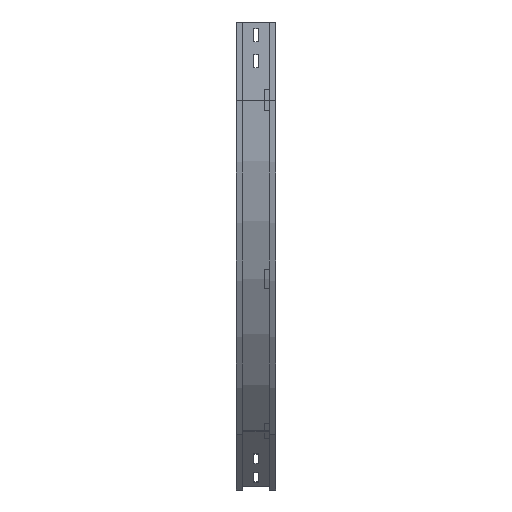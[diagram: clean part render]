
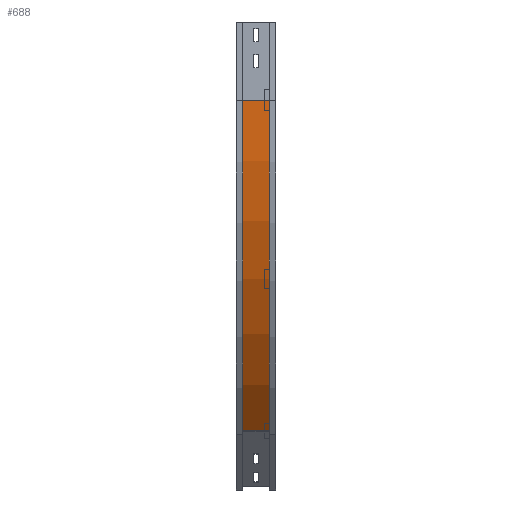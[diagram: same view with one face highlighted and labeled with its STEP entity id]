
A CAD part, left-side view. The second image highlights one B-rep face of the part: STEP entity #688.
In plain terms, the highlighted cylindrical face has radius 900 mm (diameter 1800 mm), a partial arc.
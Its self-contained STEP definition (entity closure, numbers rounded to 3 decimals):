
#97 = VECTOR ( 'NONE', #999, 1000. ) ;
#474 = EDGE_CURVE ( 'NONE', #2782, #1025, #637, .T. ) ;
#543 = DIRECTION ( 'NONE',  ( 0., -1., 0. ) ) ;
#546 = EDGE_LOOP ( 'NONE', ( #1696, #759, #2473, #1239 ) ) ;
#630 = CARTESIAN_POINT ( 'NONE',  ( 9., 63., -150. ) ) ;
#637 = CIRCLE ( 'NONE', #1547, 900. ) ;
#688 = ADVANCED_FACE ( 'NONE', ( #2838 ), #3156, .T. ) ;
#759 = ORIENTED_EDGE ( 'NONE', *, *, #3057, .F. ) ;
#807 = CARTESIAN_POINT ( 'NONE',  ( 9., 12., -150. ) ) ;
#911 = VERTEX_POINT ( 'NONE', #630 ) ;
#999 = DIRECTION ( 'NONE',  ( 0., -1., 0. ) ) ;
#1025 = VERTEX_POINT ( 'NONE', #2085 ) ;
#1035 = EDGE_CURVE ( 'NONE', #1981, #1025, #2372, .T. ) ;
#1231 = EDGE_CURVE ( 'NONE', #911, #1981, #2812, .T. ) ;
#1239 = ORIENTED_EDGE ( 'NONE', *, *, #1035, .T. ) ;
#1367 = CARTESIAN_POINT ( 'NONE',  ( 909., 12., -150. ) ) ;
#1383 = DIRECTION ( 'NONE',  ( -1., 0., 0. ) ) ;
#1547 = AXIS2_PLACEMENT_3D ( 'NONE', #1367, #2632, #1383 ) ;
#1602 = CARTESIAN_POINT ( 'NONE',  ( 272.604, 12., -786.396 ) ) ;
#1696 = ORIENTED_EDGE ( 'NONE', *, *, #474, .F. ) ;
#1708 = AXIS2_PLACEMENT_3D ( 'NONE', #2166, #2883, #2119 ) ;
#1981 = VERTEX_POINT ( 'NONE', #2163 ) ;
#2085 = CARTESIAN_POINT ( 'NONE',  ( 272.604, 12., -786.396 ) ) ;
#2119 = DIRECTION ( 'NONE',  ( 0., 0., -1. ) ) ;
#2141 = LINE ( 'NONE', #807, #2819 ) ;
#2163 = CARTESIAN_POINT ( 'NONE',  ( 272.604, 63., -786.396 ) ) ;
#2166 = CARTESIAN_POINT ( 'NONE',  ( 909., 0., -150. ) ) ;
#2253 = DIRECTION ( 'NONE',  ( -1., 0., 0. ) ) ;
#2272 = DIRECTION ( 'NONE',  ( 0., -1., 0. ) ) ;
#2328 = AXIS2_PLACEMENT_3D ( 'NONE', #3074, #2272, #2253 ) ;
#2372 = LINE ( 'NONE', #1602, #97 ) ;
#2473 = ORIENTED_EDGE ( 'NONE', *, *, #1231, .T. ) ;
#2632 = DIRECTION ( 'NONE',  ( 0., -1., 0. ) ) ;
#2782 = VERTEX_POINT ( 'NONE', #2918 ) ;
#2812 = CIRCLE ( 'NONE', #2328, 900. ) ;
#2819 = VECTOR ( 'NONE', #543, 1000. ) ;
#2838 = FACE_OUTER_BOUND ( 'NONE', #546, .T. ) ;
#2883 = DIRECTION ( 'NONE',  ( 0., -1., 0. ) ) ;
#2918 = CARTESIAN_POINT ( 'NONE',  ( 9., 12., -150. ) ) ;
#3057 = EDGE_CURVE ( 'NONE', #911, #2782, #2141, .T. ) ;
#3074 = CARTESIAN_POINT ( 'NONE',  ( 909., 63., -150. ) ) ;
#3156 = CYLINDRICAL_SURFACE ( 'NONE', #1708, 900. ) ;
